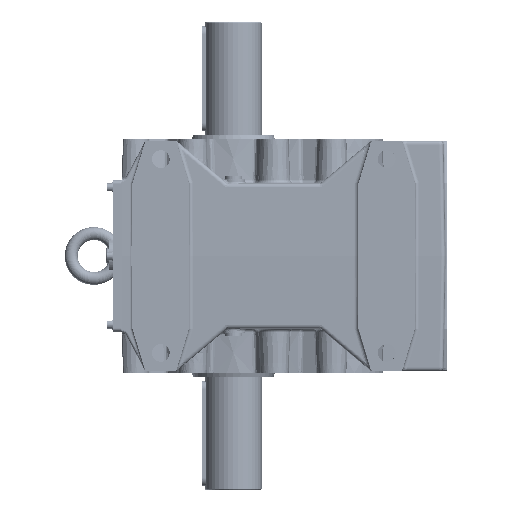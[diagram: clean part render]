
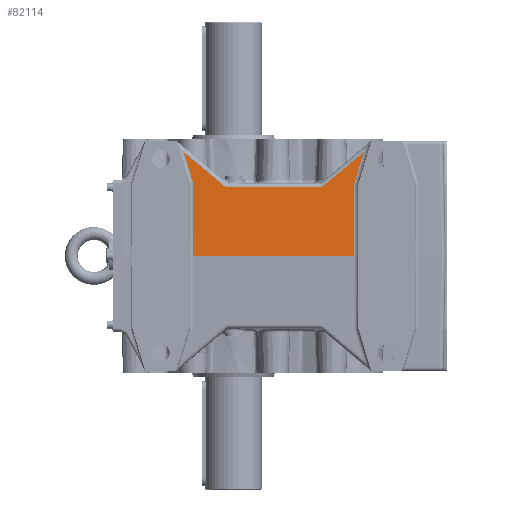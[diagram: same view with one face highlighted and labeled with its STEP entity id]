
A CAD part, left-side view. The second image highlights one B-rep face of the part: STEP entity #82114.
In plain terms, the highlighted planar face has unit normal (-1, 0, 0.018).
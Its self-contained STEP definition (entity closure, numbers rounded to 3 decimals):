
#82007=CARTESIAN_POINT('',(-154.989,50.,90.651));
#82008=VERTEX_POINT('',#82007);
#82016=CARTESIAN_POINT('',(-154.327,61.437,128.536));
#82017=VERTEX_POINT('',#82016);
#82018=CARTESIAN_POINT('',(-154.989,50.,90.651));
#82019=DIRECTION('',(0.017,0.289,0.957));
#82020=VECTOR('',#82019,39.579);
#82021=LINE('',#82018,#82020);
#82022=EDGE_CURVE('',#82008,#82017,#82021,.T.);
#82034=CARTESIAN_POINT('',(-156.571,-260.0,0.014));
#82035=DIRECTION('',(-1.,0.,0.017));
#82036=DIRECTION('',(0.017,0.,1.));
#82037=AXIS2_PLACEMENT_3D('',#82034,#82035,#82036);
#82038=PLANE('',#82037);
#82039=CARTESIAN_POINT('',(-155.045,-112.445,87.427));
#82040=VERTEX_POINT('',#82039);
#82041=CARTESIAN_POINT('',(-154.327,-161.437,128.536));
#82042=VERTEX_POINT('',#82041);
#82043=CARTESIAN_POINT('',(-155.045,-112.445,87.427));
#82044=DIRECTION('',(0.011,-0.766,0.643));
#82045=VECTOR('',#82044,63.958);
#82046=LINE('',#82043,#82045);
#82047=EDGE_CURVE('',#82040,#82042,#82046,.T.);
#82048=ORIENTED_EDGE('',*,*,#82047,.F.);
#82049=CARTESIAN_POINT('',(-155.086,-106.017,85.087));
#82050=VERTEX_POINT('',#82049);
#82051=CARTESIAN_POINT('',(-154.911,-106.017,95.087));
#82052=DIRECTION('',(-1.,0.,0.017));
#82053=DIRECTION('',(-0.017,0.,-1.));
#82054=AXIS2_PLACEMENT_3D('',#82051,#82052,#82053);
#82055=ELLIPSE('',#82054,10.002,10.0);
#82056=EDGE_CURVE('',#82050,#82040,#82055,.T.);
#82057=ORIENTED_EDGE('',*,*,#82056,.F.);
#82058=CARTESIAN_POINT('',(-155.086,6.017,85.087));
#82059=VERTEX_POINT('',#82058);
#82060=CARTESIAN_POINT('',(-155.086,6.017,85.087));
#82061=DIRECTION('',(0.0,-1.0,0.0));
#82062=VECTOR('',#82061,112.034);
#82063=LINE('',#82060,#82062);
#82064=EDGE_CURVE('',#82059,#82050,#82063,.T.);
#82065=ORIENTED_EDGE('',*,*,#82064,.F.);
#82066=CARTESIAN_POINT('',(-155.045,12.445,87.427));
#82067=VERTEX_POINT('',#82066);
#82068=CARTESIAN_POINT('',(-154.911,6.017,95.087));
#82069=DIRECTION('',(-1.,0.,0.017));
#82070=DIRECTION('',(-0.017,0.,-1.));
#82071=AXIS2_PLACEMENT_3D('',#82068,#82069,#82070);
#82072=ELLIPSE('',#82071,10.002,10.);
#82073=EDGE_CURVE('',#82067,#82059,#82072,.T.);
#82074=ORIENTED_EDGE('',*,*,#82073,.F.);
#82075=CARTESIAN_POINT('',(-154.327,61.437,128.536));
#82076=DIRECTION('',(-0.011,-0.766,-0.643));
#82077=VECTOR('',#82076,63.958);
#82078=LINE('',#82075,#82077);
#82079=EDGE_CURVE('',#82017,#82067,#82078,.T.);
#82080=ORIENTED_EDGE('',*,*,#82079,.F.);
#82081=ORIENTED_EDGE('',*,*,#82022,.F.);
#82082=CARTESIAN_POINT('',(-156.571,50.,0.0));
#82083=VERTEX_POINT('',#82082);
#82084=CARTESIAN_POINT('',(-156.571,50.,0.));
#82085=DIRECTION('',(0.017,0.0,1.));
#82086=VECTOR('',#82085,90.665);
#82087=LINE('',#82084,#82086);
#82088=EDGE_CURVE('',#82083,#82008,#82087,.T.);
#82089=ORIENTED_EDGE('',*,*,#82088,.F.);
#82090=CARTESIAN_POINT('',(-156.571,-150.0,0.0));
#82091=VERTEX_POINT('',#82090);
#82092=CARTESIAN_POINT('',(-156.571,-150.0,0.0));
#82093=DIRECTION('',(0.0,1.0,0.0));
#82094=VECTOR('',#82093,200.);
#82095=LINE('',#82092,#82094);
#82096=EDGE_CURVE('',#82083,#82091,#82095,.F.);
#82097=ORIENTED_EDGE('',*,*,#82096,.T.);
#82098=CARTESIAN_POINT('',(-154.989,-150.0,90.651));
#82099=VERTEX_POINT('',#82098);
#82100=CARTESIAN_POINT('',(-154.989,-150.0,90.651));
#82101=DIRECTION('',(-0.017,0.0,-1.));
#82102=VECTOR('',#82101,90.665);
#82103=LINE('',#82100,#82102);
#82104=EDGE_CURVE('',#82099,#82091,#82103,.T.);
#82105=ORIENTED_EDGE('',*,*,#82104,.F.);
#82106=CARTESIAN_POINT('',(-154.327,-161.437,128.536));
#82107=DIRECTION('',(-0.017,0.289,-0.957));
#82108=VECTOR('',#82107,39.579);
#82109=LINE('',#82106,#82108);
#82110=EDGE_CURVE('',#82042,#82099,#82109,.T.);
#82111=ORIENTED_EDGE('',*,*,#82110,.F.);
#82112=EDGE_LOOP('',(#82048,#82057,#82065,#82074,#82080,#82081,#82089,#82097,#82105,#82111));
#82113=FACE_OUTER_BOUND('',#82112,.T.);
#82114=ADVANCED_FACE('',(#82113),#82038,.T.);
